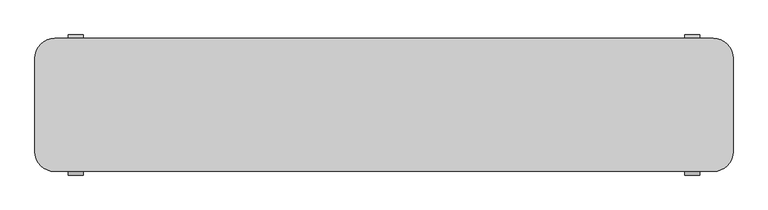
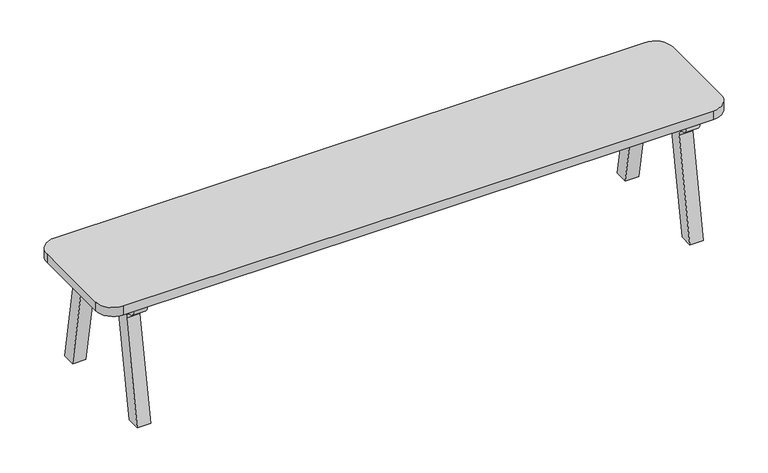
"""IFC4 building model written with IfcOpenShell, lengths in millimetres: furniture geometry, Furniture-Chair-LyndonDesign-Agent_AGE_25 : Furniture-Chair-LyndonDesign-Agent_AGE_25."""

from ifc_helpers import new_model, si_unit, point, frame, frame_2d, origin, place, context, project, spatial, polyline, circle_curve, trimmed, segment, composite_curve, outline, extrude, source, transform, mapped, element, save


def furniture_34a17ae2(model_context):
    return source(origin(), model_context, "Body", "SweptSolid", [
        extrude(outline(composite_curve([segment(trimmed(circle_curve(frame_2d((165.6735065, 401.5998686)), 25.3572907), [point((190.0, 408.7562579))], [point((168.1510827, 376.3639059))], False, "CARTESIAN"), True, "CONTINUOUS"), segment(trimmed(circle_curve(frame_2d((170.282248, 354.6563968)), 21.8118734), [point((168.1510827, 376.3639059))], [point((148.6060058, 352.2277461))], True, "CARTESIAN"), True, "CONTINUOUS"), segment(polyline([(148.6060058, 352.2277461), (210.7132608, 0.0), (165.0190633, 0.0), (101.7606555, 358.7562579)]), True, "CONTINUOUS"), segment(trimmed(circle_curve(frame_2d((85.0189237, 355.8042389)), 17.0), [point((101.7606555, 358.7562579))], [point((85.0189237, 372.8042389))], True, "CARTESIAN"), True, "CONTINUOUS"), segment(polyline([(85.0189237, 372.8042389), (-85.0189237, 372.8042389)]), True, "CONTINUOUS"), segment(trimmed(circle_curve(frame_2d((-85.0189237, 355.8042389)), 17.0), [point((-85.0189237, 372.8042389))], [point((-101.7606555, 358.7562579))], True, "CARTESIAN"), True, "CONTINUOUS"), segment(polyline([(-101.7606555, 358.7562579), (-165.0190633, 0.0), (-210.7132608, 0.0), (-148.6060058, 352.2277461)]), True, "CONTINUOUS"), segment(trimmed(circle_curve(frame_2d((-170.282248, 354.6563968)), 21.8118734), [point((-148.6060058, 352.2277461))], [point((-168.1510827, 376.3639059))], True, "CARTESIAN"), True, "CONTINUOUS"), segment(trimmed(circle_curve(frame_2d((-165.6735065, 401.5998686)), 25.3572907), [point((-168.1510827, 376.3639059))], [point((-190.0, 408.7562579))], False, "CARTESIAN"), True, "CONTINUOUS"), segment(polyline([(-190.0, 408.7562579), (190.0, 408.7562579)]), True, "CONTINUOUS")], self_intersect=False)), frame((904.9999833, 0.0, 0.0), z_axis=(1.0, 0.0, 0.0), x_axis=(0.0, 1.0, 0.0)), (0.0, 0.0, 1.0), 45.0),
        extrude(outline(composite_curve([segment(trimmed(circle_curve(frame_2d((165.6735065, 401.5998686)), 25.3572907), [point((190.0, 408.7562579))], [point((168.1510827, 376.3639059))], False, "CARTESIAN"), True, "CONTINUOUS"), segment(trimmed(circle_curve(frame_2d((170.282248, 354.6563968)), 21.8118734), [point((168.1510827, 376.3639059))], [point((148.6060058, 352.2277461))], True, "CARTESIAN"), True, "CONTINUOUS"), segment(polyline([(148.6060058, 352.2277461), (210.7132608, 0.0), (165.0190633, 0.0), (101.7606555, 358.7562579)]), True, "CONTINUOUS"), segment(trimmed(circle_curve(frame_2d((85.0189237, 355.8042389)), 17.0), [point((101.7606555, 358.7562579))], [point((85.0189237, 372.8042389))], True, "CARTESIAN"), True, "CONTINUOUS"), segment(polyline([(85.0189237, 372.8042389), (-85.0189237, 372.8042389)]), True, "CONTINUOUS"), segment(trimmed(circle_curve(frame_2d((-85.0189237, 355.8042389)), 17.0), [point((-85.0189237, 372.8042389))], [point((-101.7606555, 358.7562579))], True, "CARTESIAN"), True, "CONTINUOUS"), segment(polyline([(-101.7606555, 358.7562579), (-165.0190633, 0.0), (-210.7132608, 0.0), (-148.6060058, 352.2277461)]), True, "CONTINUOUS"), segment(trimmed(circle_curve(frame_2d((-170.282248, 354.6563968)), 21.8118734), [point((-148.6060058, 352.2277461))], [point((-168.1510827, 376.3639059))], True, "CARTESIAN"), True, "CONTINUOUS"), segment(trimmed(circle_curve(frame_2d((-165.6735065, 401.5998686)), 25.3572907), [point((-168.1510827, 376.3639059))], [point((-190.0, 408.7562579))], False, "CARTESIAN"), True, "CONTINUOUS"), segment(polyline([(-190.0, 408.7562579), (190.0, 408.7562579)]), True, "CONTINUOUS")], self_intersect=False)), frame((-949.9999833, 0.0, 0.0), z_axis=(1.0, 0.0, 0.0), x_axis=(0.0, 1.0, 0.0)), (0.0, 0.0, 1.0), 45.0),
        extrude(outline(polyline([(-133.353636, 373.5340284), (-127.1430065, 408.7562579), (-102.7727679, 408.7562579), (-109.718695, 369.3639476), (-133.353636, 373.5340284)])), frame((-904.9999833, 0.0, 0.0), z_axis=(1.0, 0.0, 0.0), x_axis=(0.0, 1.0, 0.0)), (0.0, 0.0, 1.0), 1809.9999666),
        extrude(outline(polyline([(133.353636, 373.5340284), (109.718695, 369.3639476), (102.7727679, 408.7562579), (127.1430065, 408.7562579), (133.353636, 373.5340284)])), frame((-904.9999833, 0.0, 0.0), z_axis=(1.0, 0.0, 0.0), x_axis=(0.0, 1.0, 0.0)), (0.0, 0.0, 1.0), 1809.9999666),
        extrude(outline(composite_curve([segment(polyline([(-990.0, 200.0), (990.0, 200.0)]), True, "CONTINUOUS"), segment(trimmed(circle_curve(frame_2d((990.0, 140.0)), 60.0), [point((990.0, 200.0))], [point((1050.0, 140.0))], False, "CARTESIAN"), True, "CONTINUOUS"), segment(polyline([(1050.0, 140.0), (1050.0, -140.0)]), True, "CONTINUOUS"), segment(trimmed(circle_curve(frame_2d((990.0, -140.0)), 60.0), [point((1050.0, -140.0))], [point((990.0, -200.0))], False, "CARTESIAN"), True, "CONTINUOUS"), segment(polyline([(990.0, -200.0), (-990.0, -200.0)]), True, "CONTINUOUS"), segment(trimmed(circle_curve(frame_2d((-990.0, -140.0)), 60.0), [point((-990.0, -200.0))], [point((-1050.0, -140.0))], False, "CARTESIAN"), True, "CONTINUOUS"), segment(polyline([(-1050.0, -140.0), (-1050.0, 140.0)]), True, "CONTINUOUS"), segment(trimmed(circle_curve(frame_2d((-990.0, 140.0)), 60.0), [point((-1050.0, 140.0))], [point((-990.0, 200.0))], False, "CARTESIAN"), True, "CONTINUOUS")], self_intersect=False)), frame((0.0, 0.0, 408.7562579), z_axis=(0.0, 0.0, 1.0), x_axis=(1.0, 0.0, 0.0)), (0.0, 0.0, 1.0), 31.2437421),
    ])


if __name__ == "__main__":
    model = new_model("IFC4")
    model_context = context("Model", 3, world=origin())
    ifc_project = project(units=[si_unit("LENGTHUNIT", "METRE", prefix="MILLI")], contexts=[model_context])
    site = spatial("IfcSite", under=ifc_project)
    building = spatial("IfcBuilding", under=site)
    placement = place(None, origin())
    furniture_shape = furniture_34a17ae2(model_context)
    element("IfcFurniture", 1, ObjectType="Furniture-Chair-LyndonDesign-Agent_AGE_25 : Furniture-Chair-LyndonDesign-Agent_AGE_25", at=placement, inside=building, context=model_context, shape_type="MappedRepresentation", body=[
        mapped(furniture_shape, transform((0.0, 0.0, 0.0), x_axis=(1.0, 0.0, 0.0), y_axis=(0.0, 1.0, 0.0), z_axis=(0.0, 0.0, 1.0))),
    ])
    save(model, "model.ifc")
